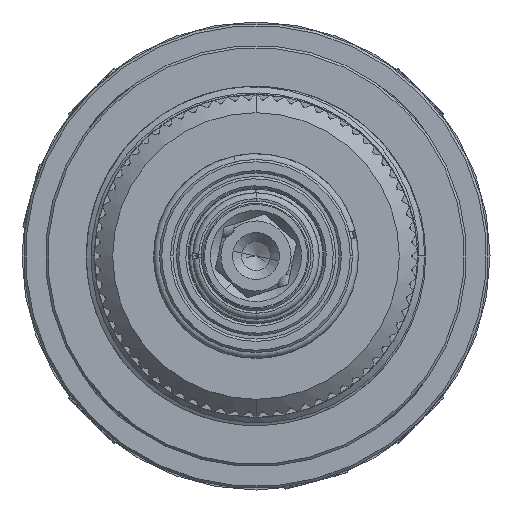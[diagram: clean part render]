
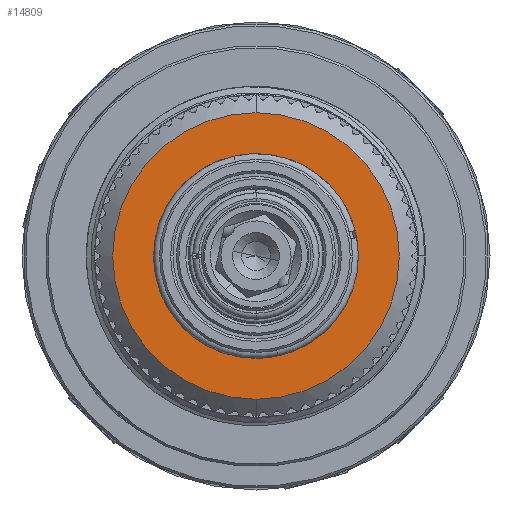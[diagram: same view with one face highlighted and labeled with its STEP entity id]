
A CAD part, front view. The second image highlights one B-rep face of the part: STEP entity #14809.
In plain terms, the highlighted planar face has unit normal (0, -1, 0).
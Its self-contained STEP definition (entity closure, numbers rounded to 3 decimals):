
#2283 = DIRECTION ( 'NONE',  ( 0., 1., 0. ) ) ;
#4227 = AXIS2_PLACEMENT_3D ( 'NONE', #64764, #54025, #43242 ) ;
#6538 = CARTESIAN_POINT ( 'NONE',  ( 0., -48.039, -8.753 ) ) ;
#7485 = EDGE_LOOP ( 'NONE', ( #48166, #51217 ) ) ;
#9994 = CARTESIAN_POINT ( 'NONE',  ( 12.25, -48.039, 0. ) ) ;
#13113 = CARTESIAN_POINT ( 'NONE',  ( 0., -48.039, 0. ) ) ;
#14809 = ADVANCED_FACE ( 'NONE', ( #90709, #88039 ), #20814, .F. ) ;
#15139 = ORIENTED_EDGE ( 'NONE', *, *, #91244, .T. ) ;
#20814 = PLANE ( 'NONE',  #98872 ) ;
#21239 = CARTESIAN_POINT ( 'NONE',  ( 0., -48.039, 0. ) ) ;
#23779 = ORIENTED_EDGE ( 'NONE', *, *, #92288, .T. ) ;
#23934 = CIRCLE ( 'NONE', #65578, 8.753 ) ;
#32763 = DIRECTION ( 'NONE',  ( 0., 0., 1. ) ) ;
#37855 = CARTESIAN_POINT ( 'NONE',  ( 0., -48.039, 0. ) ) ;
#43242 = DIRECTION ( 'NONE',  ( 0., 0., 1. ) ) ;
#43442 = DIRECTION ( 'NONE',  ( 0., 1., 0. ) ) ;
#45252 = EDGE_CURVE ( 'NONE', #63077, #64299, #59835, .T. ) ;
#47046 = VERTEX_POINT ( 'NONE', #88968 ) ;
#48166 = ORIENTED_EDGE ( 'NONE', *, *, #45252, .F. ) ;
#49584 = VERTEX_POINT ( 'NONE', #6538 ) ;
#51217 = ORIENTED_EDGE ( 'NONE', *, *, #67153, .F. ) ;
#51925 = AXIS2_PLACEMENT_3D ( 'NONE', #21239, #104674, #93884 ) ;
#54025 = DIRECTION ( 'NONE',  ( 0., 1., 0. ) ) ;
#59720 = EDGE_LOOP ( 'NONE', ( #15139, #23779 ) ) ;
#59835 = CIRCLE ( 'NONE', #72814, 12.25 ) ;
#62748 = CARTESIAN_POINT ( 'NONE',  ( 0., -48.039, -12.25 ) ) ;
#63077 = VERTEX_POINT ( 'NONE', #102957 ) ;
#64299 = VERTEX_POINT ( 'NONE', #62748 ) ;
#64764 = CARTESIAN_POINT ( 'NONE',  ( 0., -48.039, 0. ) ) ;
#65578 = AXIS2_PLACEMENT_3D ( 'NONE', #37855, #43442, #32763 ) ;
#67153 = EDGE_CURVE ( 'NONE', #64299, #63077, #76883, .T. ) ;
#72814 = AXIS2_PLACEMENT_3D ( 'NONE', #13113, #2283, #96572 ) ;
#73477 = CIRCLE ( 'NONE', #4227, 8.753 ) ;
#76883 = CIRCLE ( 'NONE', #51925, 12.25 ) ;
#88039 = FACE_BOUND ( 'NONE', #59720, .T. ) ;
#88968 = CARTESIAN_POINT ( 'NONE',  ( 0., -48.039, 8.753 ) ) ;
#90709 = FACE_OUTER_BOUND ( 'NONE', #7485, .T. ) ;
#91244 = EDGE_CURVE ( 'NONE', #49584, #47046, #23934, .T. ) ;
#92288 = EDGE_CURVE ( 'NONE', #47046, #49584, #73477, .T. ) ;
#93470 = DIRECTION ( 'NONE',  ( 0., 0., 1. ) ) ;
#93884 = DIRECTION ( 'NONE',  ( 0., 0., 1. ) ) ;
#96572 = DIRECTION ( 'NONE',  ( 0., 0., 1. ) ) ;
#98872 = AXIS2_PLACEMENT_3D ( 'NONE', #9994, #104261, #93470 ) ;
#102957 = CARTESIAN_POINT ( 'NONE',  ( 0., -48.039, 12.25 ) ) ;
#104261 = DIRECTION ( 'NONE',  ( 0., 1., 0. ) ) ;
#104674 = DIRECTION ( 'NONE',  ( 0., 1., 0. ) ) ;
